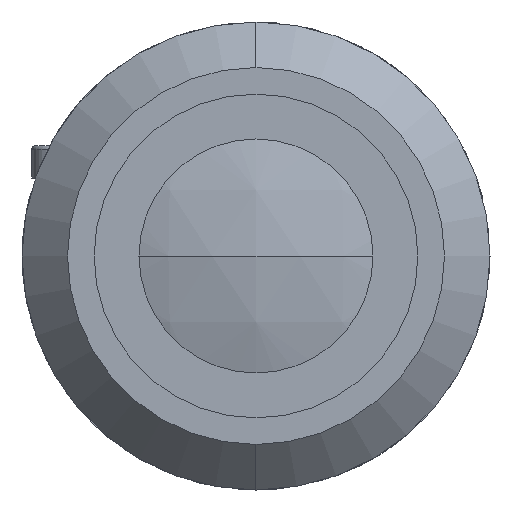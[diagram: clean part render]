
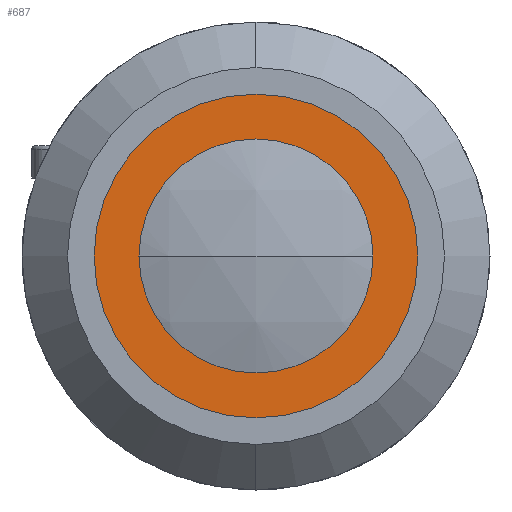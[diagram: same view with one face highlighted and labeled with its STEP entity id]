
A CAD part, left-side view. The second image highlights one B-rep face of the part: STEP entity #687.
In plain terms, the highlighted planar face has unit normal (-1, 0, 0).
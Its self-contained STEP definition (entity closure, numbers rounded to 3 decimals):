
#58 = DIRECTION ( 'NONE',  ( -1., 0., 0. ) ) ;
#171 = VERTEX_POINT ( 'NONE', #2819 ) ;
#175 = EDGE_LOOP ( 'NONE', ( #1124, #1294 ) ) ;
#213 = AXIS2_PLACEMENT_3D ( 'NONE', #1033, #2959, #1307 ) ;
#245 = VERTEX_POINT ( 'NONE', #384 ) ;
#282 = CIRCLE ( 'NONE', #603, 13.2 ) ;
#384 = CARTESIAN_POINT ( 'NONE',  ( 3.5, 0., 13.2 ) ) ;
#603 = AXIS2_PLACEMENT_3D ( 'NONE', #3313, #1670, #3574 ) ;
#687 = ADVANCED_FACE ( 'NONE', ( #1643, #1558 ), #2889, .F. ) ;
#953 = CARTESIAN_POINT ( 'NONE',  ( 3.5, 13.2, 0. ) ) ;
#993 = AXIS2_PLACEMENT_3D ( 'NONE', #1102, #3024, #1367 ) ;
#1028 = CIRCLE ( 'NONE', #993, 13.2 ) ;
#1033 = CARTESIAN_POINT ( 'NONE',  ( 3.5, 0., 0. ) ) ;
#1102 = CARTESIAN_POINT ( 'NONE',  ( 3.5, 0., 0. ) ) ;
#1124 = ORIENTED_EDGE ( 'NONE', *, *, #3444, .F. ) ;
#1239 = DIRECTION ( 'NONE',  ( 0., 0., -1. ) ) ;
#1294 = ORIENTED_EDGE ( 'NONE', *, *, #2106, .F. ) ;
#1307 = DIRECTION ( 'NONE',  ( 0., 0., 1. ) ) ;
#1367 = DIRECTION ( 'NONE',  ( 0., 0., 1. ) ) ;
#1471 = ORIENTED_EDGE ( 'NONE', *, *, #3017, .T. ) ;
#1558 = FACE_OUTER_BOUND ( 'NONE', #1656, .T. ) ;
#1589 = AXIS2_PLACEMENT_3D ( 'NONE', #1736, #58, #2004 ) ;
#1599 = CARTESIAN_POINT ( 'NONE',  ( 3.5, 0., -9. ) ) ;
#1605 = ORIENTED_EDGE ( 'NONE', *, *, #2592, .T. ) ;
#1643 = FACE_BOUND ( 'NONE', #175, .T. ) ;
#1645 = VERTEX_POINT ( 'NONE', #1599 ) ;
#1656 = EDGE_LOOP ( 'NONE', ( #1471, #1605 ) ) ;
#1670 = DIRECTION ( 'NONE',  ( -1., 0., 0. ) ) ;
#1736 = CARTESIAN_POINT ( 'NONE',  ( 3.5, 0., 0. ) ) ;
#1965 = CIRCLE ( 'NONE', #1589, 9. ) ;
#2004 = DIRECTION ( 'NONE',  ( 0., 0., 1. ) ) ;
#2106 = EDGE_CURVE ( 'NONE', #1645, #171, #1965, .T. ) ;
#2422 = VERTEX_POINT ( 'NONE', #2688 ) ;
#2592 = EDGE_CURVE ( 'NONE', #2422, #245, #1028, .T. ) ;
#2688 = CARTESIAN_POINT ( 'NONE',  ( 3.5, 0., -13.2 ) ) ;
#2819 = CARTESIAN_POINT ( 'NONE',  ( 3.5, 0., 9. ) ) ;
#2889 = PLANE ( 'NONE',  #3254 ) ;
#2896 = DIRECTION ( 'NONE',  ( 1., 0., 0. ) ) ;
#2959 = DIRECTION ( 'NONE',  ( -1., 0., 0. ) ) ;
#3017 = EDGE_CURVE ( 'NONE', #245, #2422, #282, .T. ) ;
#3024 = DIRECTION ( 'NONE',  ( -1., 0., 0. ) ) ;
#3254 = AXIS2_PLACEMENT_3D ( 'NONE', #953, #2896, #1239 ) ;
#3295 = CIRCLE ( 'NONE', #213, 9. ) ;
#3313 = CARTESIAN_POINT ( 'NONE',  ( 3.5, 0., 0. ) ) ;
#3444 = EDGE_CURVE ( 'NONE', #171, #1645, #3295, .T. ) ;
#3574 = DIRECTION ( 'NONE',  ( 0., 0., 1. ) ) ;
